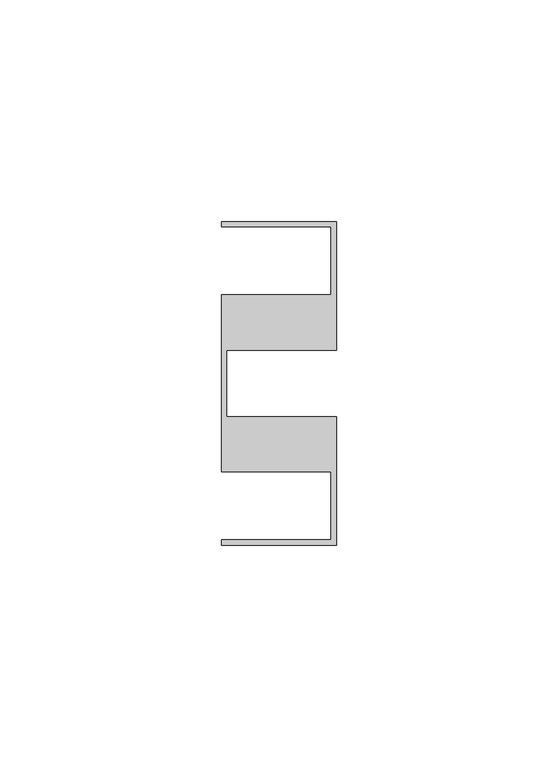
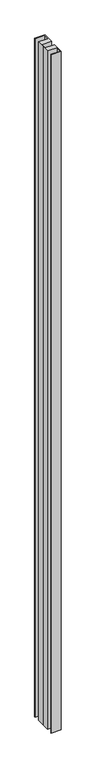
"""IFC4 building model written with IfcOpenShell, lengths in millimetres: member geometry, Прямоугольный импост : 10-AMG-2-Профиль 26Х73 Верх П."""

from ifc_helpers import new_model, si_unit, frame, origin, place, context, project, spatial, polyline, outline, extrude, source, transform, mapped, element, save


def member_09b85563(model_context):
    return source(origin(), model_context, "Body", "SweptSolid", [
        extrude(outline(polyline([(-26.0, 36.5), (0.0, 36.5), (0.0, 7.5116043), (-24.8, 7.5116043), (-24.8, 0.0), (-24.8, -7.5116043), (0.0, -7.5116043), (0.0, -36.5), (-26.0, -36.5), (-26.0, -35.3116043), (-1.2, -35.3116043), (-1.2, -20.0), (-26.0, -20.0), (-26.0, 0.0), (-26.0, 20.0), (-1.2, 20.0), (-1.2, 35.3), (-26.0, 35.3), (-26.0, 36.5)])), frame((0.0, 0.0, -1845.8251447), z_axis=(0.0, 0.0, 1.0), x_axis=(1.0, 0.0, 0.0)), (0.0, 0.0, 1.0), 1845.8251447),
    ])


if __name__ == "__main__":
    model = new_model("IFC4")
    model_context = context("Model", 3, world=origin())
    ifc_project = project(units=[si_unit("LENGTHUNIT", "METRE", prefix="MILLI")], contexts=[model_context])
    site = spatial("IfcSite", under=ifc_project)
    building = spatial("IfcBuilding", under=site)
    placement = place(None, origin())
    member_shape = member_09b85563(model_context)
    element("IfcMember", 1, ObjectType="Прямоугольный импост : 10-AMG-2-Профиль 26Х73 Верх П", at=placement, inside=building, context=model_context, shape_type="MappedRepresentation", body=[
        mapped(member_shape, transform((0.0, 0.0, 0.0), x_axis=(1.0, 0.0, 0.0), y_axis=(0.0, 1.0, 0.0), z_axis=(0.0, 0.0, 1.0))),
    ])
    save(model, "model.ifc")
